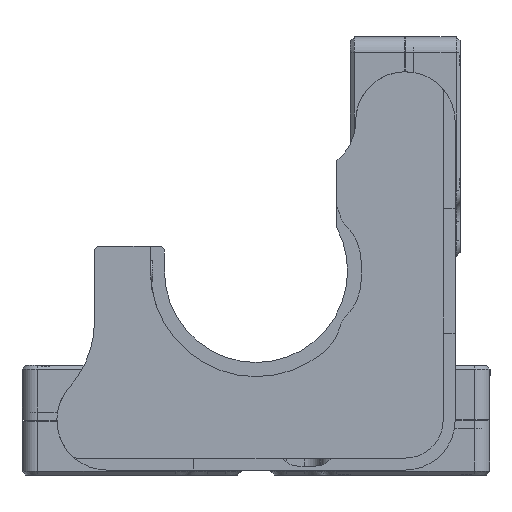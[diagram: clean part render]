
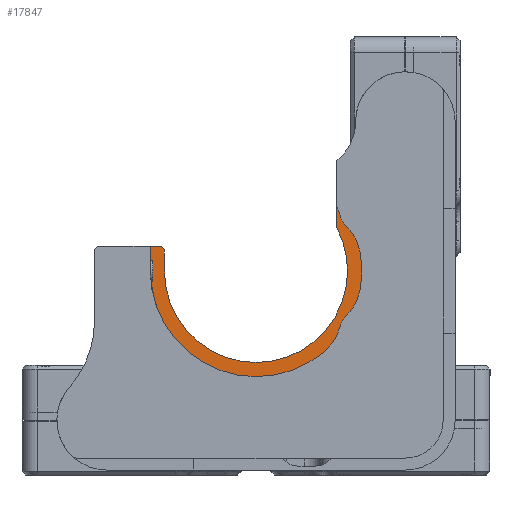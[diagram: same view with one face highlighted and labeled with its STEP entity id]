
A CAD part, left-side view. The second image highlights one B-rep face of the part: STEP entity #17847.
In plain terms, the highlighted planar face has unit normal (-1, 0, 0).
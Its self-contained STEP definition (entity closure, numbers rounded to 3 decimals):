
#150 = CARTESIAN_POINT ( 'NONE',  ( 102.258, 118.215, 136.298 ) ) ;
#276 = CARTESIAN_POINT ( 'NONE',  ( 102.258, 128.527, 130.805 ) ) ;
#535 = CARTESIAN_POINT ( 'NONE',  ( 102.258, 128.527, 130.805 ) ) ;
#966 = VERTEX_POINT ( 'NONE', #20637 ) ;
#1025 = ORIENTED_EDGE ( 'NONE', *, *, #6099, .T. ) ;
#1149 = LINE ( 'NONE', #22118, #7382 ) ;
#1247 = CARTESIAN_POINT ( 'NONE',  ( 102.258, 128.527, 130.805 ) ) ;
#1389 = EDGE_CURVE ( 'NONE', #7094, #22171, #16190, .T. ) ;
#1403 = DIRECTION ( 'NONE',  ( -1., 0., 0. ) ) ;
#1439 = DIRECTION ( 'NONE',  ( 0., 0., -1. ) ) ;
#1461 = LINE ( 'NONE', #2924, #2743 ) ;
#1606 = ORIENTED_EDGE ( 'NONE', *, *, #7893, .F. ) ;
#1988 = CARTESIAN_POINT ( 'NONE',  ( 102.258, 128.527, 130.805 ) ) ;
#2124 = AXIS2_PLACEMENT_3D ( 'NONE', #18793, #22981, #22811 ) ;
#2192 = VECTOR ( 'NONE', #20872, 1000. ) ;
#2743 = VECTOR ( 'NONE', #7089, 1000. ) ;
#2797 = EDGE_CURVE ( 'NONE', #11591, #6639, #24795, .T. ) ;
#2924 = CARTESIAN_POINT ( 'NONE',  ( 102.258, 142.014, 133.98 ) ) ;
#3180 = ORIENTED_EDGE ( 'NONE', *, *, #23465, .T. ) ;
#3188 = CIRCLE ( 'NONE', #10216, 1.588 ) ;
#3257 = AXIS2_PLACEMENT_3D ( 'NONE', #1988, #15915, #17884 ) ;
#3455 = ORIENTED_EDGE ( 'NONE', *, *, #18757, .T. ) ;
#3660 = EDGE_CURVE ( 'NONE', #21159, #10240, #15155, .T. ) ;
#4156 = EDGE_CURVE ( 'NONE', #10240, #14126, #1149, .T. ) ;
#4449 = ORIENTED_EDGE ( 'NONE', *, *, #18384, .F. ) ;
#4522 = CIRCLE ( 'NONE', #19489, 0.762 ) ;
#5251 = CARTESIAN_POINT ( 'NONE',  ( 102.258, 119.843, 120.486 ) ) ;
#5296 = ORIENTED_EDGE ( 'NONE', *, *, #5648, .F. ) ;
#5437 = ORIENTED_EDGE ( 'NONE', *, *, #2797, .T. ) ;
#5648 = EDGE_CURVE ( 'NONE', #23803, #22434, #18274, .T. ) ;
#6099 = EDGE_CURVE ( 'NONE', #10397, #966, #1461, .T. ) ;
#6169 = AXIS2_PLACEMENT_3D ( 'NONE', #12885, #9132, #1439 ) ;
#6639 = VERTEX_POINT ( 'NONE', #13532 ) ;
#7043 = DIRECTION ( 'NONE',  ( -1., 0., 0. ) ) ;
#7089 = DIRECTION ( 'NONE',  ( 0., 0., -1. ) ) ;
#7094 = VERTEX_POINT ( 'NONE', #9095 ) ;
#7192 = FACE_OUTER_BOUND ( 'NONE', #21625, .T. ) ;
#7196 = CIRCLE ( 'NONE', #14501, 6.35 ) ;
#7382 = VECTOR ( 'NONE', #14093, 1000. ) ;
#7487 = CARTESIAN_POINT ( 'NONE',  ( 102.258, 117.238, 136.766 ) ) ;
#7653 = EDGE_CURVE ( 'NONE', #22171, #21159, #15779, .T. ) ;
#7893 = EDGE_CURVE ( 'NONE', #22434, #6639, #25572, .T. ) ;
#8121 = VERTEX_POINT ( 'NONE', #8158 ) ;
#8147 = ORIENTED_EDGE ( 'NONE', *, *, #1389, .T. ) ;
#8158 = CARTESIAN_POINT ( 'NONE',  ( 102.258, 117.238, 124.845 ) ) ;
#8189 = AXIS2_PLACEMENT_3D ( 'NONE', #20751, #7043, #22737 ) ;
#8541 = DIRECTION ( 'NONE',  ( 1., 0., 0. ) ) ;
#8774 = CARTESIAN_POINT ( 'NONE',  ( 102.258, 140.211, 130.805 ) ) ;
#8836 = DIRECTION ( 'NONE',  ( 0., 0., -1. ) ) ;
#9095 = CARTESIAN_POINT ( 'NONE',  ( 102.258, 118.215, 139.03 ) ) ;
#9132 = DIRECTION ( 'NONE',  ( 1., 0., 0. ) ) ;
#9788 = DIRECTION ( 'NONE',  ( 0., 0., 1. ) ) ;
#9802 = CARTESIAN_POINT ( 'NONE',  ( 102.258, 140.973, 133.218 ) ) ;
#10090 = CARTESIAN_POINT ( 'NONE',  ( 102.258, 140.973, 133.98 ) ) ;
#10216 = AXIS2_PLACEMENT_3D ( 'NONE', #13031, #14925, #8836 ) ;
#10240 = VERTEX_POINT ( 'NONE', #8774 ) ;
#10397 = VERTEX_POINT ( 'NONE', #13886 ) ;
#10622 = VERTEX_POINT ( 'NONE', #21372 ) ;
#11591 = VERTEX_POINT ( 'NONE', #24069 ) ;
#11833 = CARTESIAN_POINT ( 'NONE',  ( 102.258, 142.014, 133.98 ) ) ;
#11950 = CARTESIAN_POINT ( 'NONE',  ( 102.258, 128.527, 119.121 ) ) ;
#12231 = DIRECTION ( 'NONE',  ( 0., 0., 1. ) ) ;
#12473 = DIRECTION ( 'NONE',  ( 0., 0., -1. ) ) ;
#12673 = AXIS2_PLACEMENT_3D ( 'NONE', #535, #24233, #12231 ) ;
#12817 = VECTOR ( 'NONE', #15848, 1000. ) ;
#12840 = AXIS2_PLACEMENT_3D ( 'NONE', #1247, #1403, #25379 ) ;
#12885 = CARTESIAN_POINT ( 'NONE',  ( 102.258, 121.501, 132.059 ) ) ;
#13031 = CARTESIAN_POINT ( 'NONE',  ( 102.258, 116.173, 123.668 ) ) ;
#13276 = ORIENTED_EDGE ( 'NONE', *, *, #3660, .T. ) ;
#13532 = CARTESIAN_POINT ( 'NONE',  ( 102.258, 115.249, 133.174 ) ) ;
#13867 = CARTESIAN_POINT ( 'NONE',  ( 102.258, 121.501, 129.552 ) ) ;
#13886 = CARTESIAN_POINT ( 'NONE',  ( 102.258, 142.014, 133.98 ) ) ;
#13929 = PLANE ( 'NONE',  #3257 ) ;
#13971 = DIRECTION ( 'NONE',  ( -1., 0., 0. ) ) ;
#14093 = DIRECTION ( 'NONE',  ( 0., 0., 1. ) ) ;
#14126 = VERTEX_POINT ( 'NONE', #22102 ) ;
#14364 = VERTEX_POINT ( 'NONE', #5251 ) ;
#14501 = AXIS2_PLACEMENT_3D ( 'NONE', #22332, #8541, #22086 ) ;
#14925 = DIRECTION ( 'NONE',  ( 1., 0., 0. ) ) ;
#15155 = CIRCLE ( 'NONE', #17610, 11.684 ) ;
#15509 = ORIENTED_EDGE ( 'NONE', *, *, #7653, .T. ) ;
#15590 = DIRECTION ( 'NONE',  ( 0., 0., 1. ) ) ;
#15779 = CIRCLE ( 'NONE', #22613, 11.684 ) ;
#15848 = DIRECTION ( 'NONE',  ( 0., -1., 0. ) ) ;
#15915 = DIRECTION ( 'NONE',  ( -1., 0., 0. ) ) ;
#16007 = EDGE_CURVE ( 'NONE', #14126, #21132, #4522, .T. ) ;
#16082 = DIRECTION ( 'NONE',  ( 1., 0., 0. ) ) ;
#16190 = LINE ( 'NONE', #20707, #2192 ) ;
#16424 = ORIENTED_EDGE ( 'NONE', *, *, #24513, .T. ) ;
#17023 = ORIENTED_EDGE ( 'NONE', *, *, #16007, .T. ) ;
#17610 = AXIS2_PLACEMENT_3D ( 'NONE', #21624, #20502, #12473 ) ;
#17847 = ADVANCED_FACE ( 'NONE', ( #7192 ), #13929, .T. ) ;
#17884 = DIRECTION ( 'NONE',  ( 0., 0., 1. ) ) ;
#18274 = CIRCLE ( 'NONE', #2124, 1.587 ) ;
#18338 = EDGE_CURVE ( 'NONE', #10397, #21132, #23339, .T. ) ;
#18384 = EDGE_CURVE ( 'NONE', #7094, #23803, #7196, .T. ) ;
#18757 = EDGE_CURVE ( 'NONE', #8121, #11591, #25474, .T. ) ;
#18793 = CARTESIAN_POINT ( 'NONE',  ( 102.258, 116.173, 137.943 ) ) ;
#19057 = CIRCLE ( 'NONE', #12840, 13.487 ) ;
#19088 = EDGE_CURVE ( 'NONE', #14364, #10622, #24498, .T. ) ;
#19489 = AXIS2_PLACEMENT_3D ( 'NONE', #9802, #13971, #15590 ) ;
#19641 = DIRECTION ( 'NONE',  ( -1., 0., 0. ) ) ;
#20502 = DIRECTION ( 'NONE',  ( 1., 0., 0. ) ) ;
#20637 = CARTESIAN_POINT ( 'NONE',  ( 102.258, 142.014, 130.805 ) ) ;
#20707 = CARTESIAN_POINT ( 'NONE',  ( 102.258, 118.215, 139.03 ) ) ;
#20751 = CARTESIAN_POINT ( 'NONE',  ( 102.258, 123.931, 125.344 ) ) ;
#20872 = DIRECTION ( 'NONE',  ( 0., 0., -1. ) ) ;
#21132 = VERTEX_POINT ( 'NONE', #10090 ) ;
#21159 = VERTEX_POINT ( 'NONE', #11950 ) ;
#21179 = ORIENTED_EDGE ( 'NONE', *, *, #4156, .T. ) ;
#21372 = CARTESIAN_POINT ( 'NONE',  ( 102.258, 117.725, 124.003 ) ) ;
#21624 = CARTESIAN_POINT ( 'NONE',  ( 102.258, 128.527, 130.805 ) ) ;
#21625 = EDGE_LOOP ( 'NONE', ( #21179, #17023, #25730, #1025, #3180, #24771, #16424, #3455, #5437, #1606, #5296, #4449, #8147, #15509, #13276 ) ) ;
#22086 = DIRECTION ( 'NONE',  ( 0., 0., -1. ) ) ;
#22102 = CARTESIAN_POINT ( 'NONE',  ( 102.258, 140.211, 133.218 ) ) ;
#22118 = CARTESIAN_POINT ( 'NONE',  ( 102.258, 140.211, 130.805 ) ) ;
#22171 = VERTEX_POINT ( 'NONE', #150 ) ;
#22332 = CARTESIAN_POINT ( 'NONE',  ( 102.258, 123.931, 136.266 ) ) ;
#22406 = CARTESIAN_POINT ( 'NONE',  ( 102.258, 117.725, 137.607 ) ) ;
#22434 = VERTEX_POINT ( 'NONE', #7487 ) ;
#22613 = AXIS2_PLACEMENT_3D ( 'NONE', #276, #16082, #23883 ) ;
#22737 = DIRECTION ( 'NONE',  ( 0., 0., 1. ) ) ;
#22811 = DIRECTION ( 'NONE',  ( 0., 0., 1. ) ) ;
#22981 = DIRECTION ( 'NONE',  ( -1., 0., 0. ) ) ;
#23339 = LINE ( 'NONE', #11833, #12817 ) ;
#23465 = EDGE_CURVE ( 'NONE', #966, #14364, #19057, .T. ) ;
#23803 = VERTEX_POINT ( 'NONE', #22406 ) ;
#23883 = DIRECTION ( 'NONE',  ( 0., 0., -1. ) ) ;
#24069 = CARTESIAN_POINT ( 'NONE',  ( 102.258, 115.249, 128.436 ) ) ;
#24233 = DIRECTION ( 'NONE',  ( -1., 0., 0. ) ) ;
#24498 = CIRCLE ( 'NONE', #8189, 6.35 ) ;
#24513 = EDGE_CURVE ( 'NONE', #10622, #8121, #3188, .T. ) ;
#24642 = AXIS2_PLACEMENT_3D ( 'NONE', #13867, #19641, #9788 ) ;
#24771 = ORIENTED_EDGE ( 'NONE', *, *, #19088, .T. ) ;
#24795 = CIRCLE ( 'NONE', #12673, 13.487 ) ;
#25379 = DIRECTION ( 'NONE',  ( 0., 0., 1. ) ) ;
#25474 = CIRCLE ( 'NONE', #24642, 6.35 ) ;
#25572 = CIRCLE ( 'NONE', #6169, 6.35 ) ;
#25730 = ORIENTED_EDGE ( 'NONE', *, *, #18338, .F. ) ;
